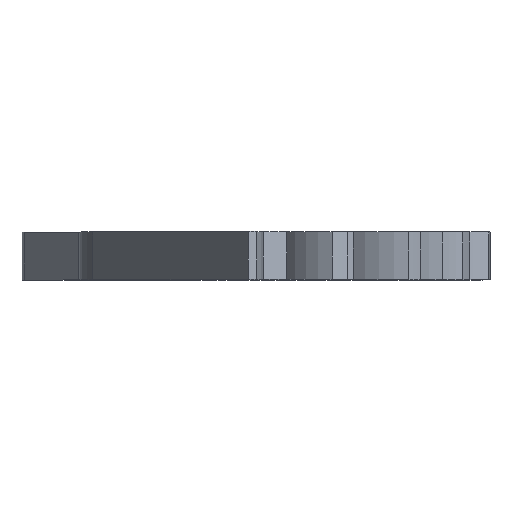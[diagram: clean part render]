
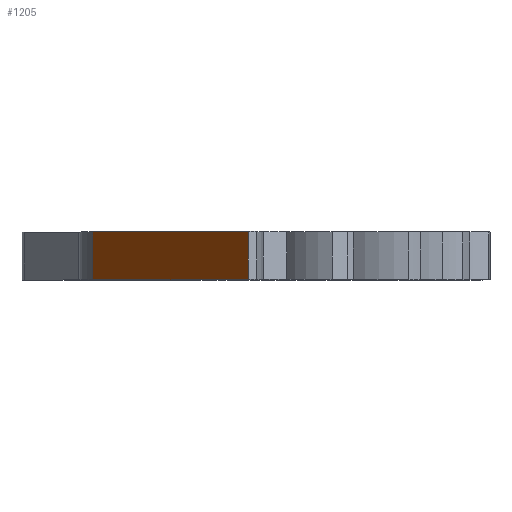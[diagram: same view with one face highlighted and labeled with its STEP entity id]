
A CAD part, top view. The second image highlights one B-rep face of the part: STEP entity #1205.
In plain terms, the highlighted planar face has unit normal (-0.856, 0, 0.517).
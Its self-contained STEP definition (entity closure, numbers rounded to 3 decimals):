
#65 = ORIENTED_EDGE ( 'NONE', *, *, #1586, .F. ) ;
#69 = EDGE_CURVE ( 'NONE', #600, #1434, #1003, .T. ) ;
#158 = DIRECTION ( 'NONE',  ( -0.856, 0., 0.517 ) ) ;
#211 = EDGE_CURVE ( 'NONE', #550, #1434, #1175, .T. ) ;
#266 = VECTOR ( 'NONE', #1579, 1000. ) ;
#307 = CARTESIAN_POINT ( 'NONE',  ( -8.559, -3., 5.171 ) ) ;
#325 = CARTESIAN_POINT ( 'NONE',  ( -8.559, 5., 5.171 ) ) ;
#326 = VECTOR ( 'NONE', #1426, 1000. ) ;
#338 = DIRECTION ( 'NONE',  ( 0.517, 0., 0.856 ) ) ;
#341 = ORIENTED_EDGE ( 'NONE', *, *, #69, .T. ) ;
#399 = ORIENTED_EDGE ( 'NONE', *, *, #211, .F. ) ;
#465 = FACE_OUTER_BOUND ( 'NONE', #1373, .T. ) ;
#550 = VERTEX_POINT ( 'NONE', #983 ) ;
#597 = LINE ( 'NONE', #307, #326 ) ;
#600 = VERTEX_POINT ( 'NONE', #682 ) ;
#682 = CARTESIAN_POINT ( 'NONE',  ( -8.559, 0., 5.171 ) ) ;
#744 = CARTESIAN_POINT ( 'NONE',  ( 7.704, 0., 32.088 ) ) ;
#873 = CARTESIAN_POINT ( 'NONE',  ( -8.559, 0., 5.171 ) ) ;
#983 = CARTESIAN_POINT ( 'NONE',  ( 7.704, 5., 32.088 ) ) ;
#1003 = LINE ( 'NONE', #873, #1250 ) ;
#1013 = CARTESIAN_POINT ( 'NONE',  ( -8.559, -3., 5.171 ) ) ;
#1175 = LINE ( 'NONE', #744, #266 ) ;
#1205 = ADVANCED_FACE ( 'NONE', ( #465 ), #1403, .T. ) ;
#1213 = LINE ( 'NONE', #1755, #1703 ) ;
#1250 = VECTOR ( 'NONE', #1559, 1000. ) ;
#1342 = ORIENTED_EDGE ( 'NONE', *, *, #1429, .F. ) ;
#1373 = EDGE_LOOP ( 'NONE', ( #341, #399, #1342, #65 ) ) ;
#1403 = PLANE ( 'NONE',  #1418 ) ;
#1418 = AXIS2_PLACEMENT_3D ( 'NONE', #1013, #158, #338 ) ;
#1426 = DIRECTION ( 'NONE',  ( 0., 1., 0. ) ) ;
#1429 = EDGE_CURVE ( 'NONE', #1604, #550, #1213, .T. ) ;
#1434 = VERTEX_POINT ( 'NONE', #1526 ) ;
#1526 = CARTESIAN_POINT ( 'NONE',  ( 7.704, 0., 32.088 ) ) ;
#1559 = DIRECTION ( 'NONE',  ( 0.517, 0., 0.856 ) ) ;
#1579 = DIRECTION ( 'NONE',  ( 0., -1., 0. ) ) ;
#1586 = EDGE_CURVE ( 'NONE', #600, #1604, #597, .T. ) ;
#1604 = VERTEX_POINT ( 'NONE', #325 ) ;
#1703 = VECTOR ( 'NONE', #1778, 1000. ) ;
#1755 = CARTESIAN_POINT ( 'NONE',  ( -8.559, 5., 5.171 ) ) ;
#1778 = DIRECTION ( 'NONE',  ( 0.517, 0., 0.856 ) ) ;
